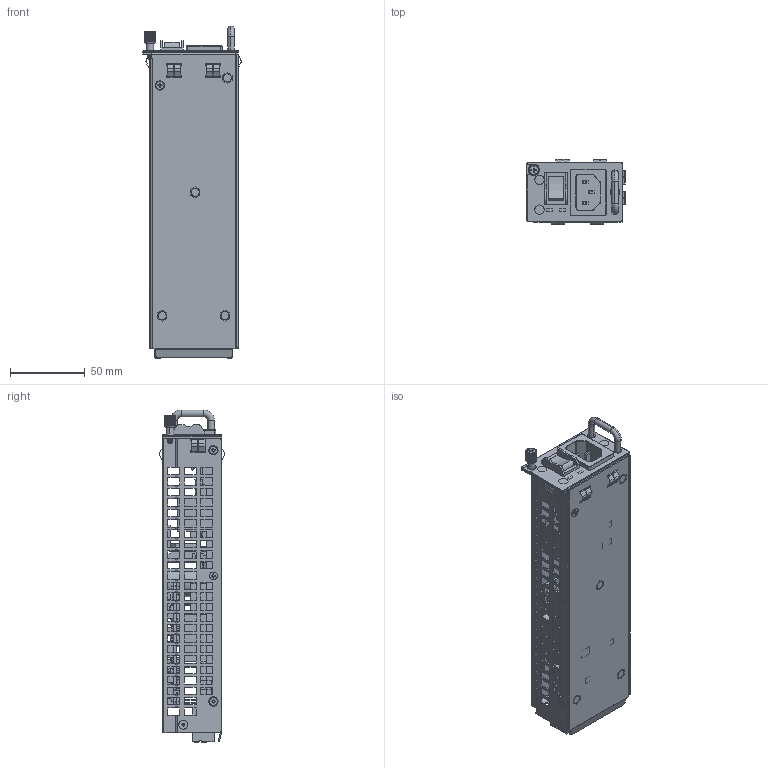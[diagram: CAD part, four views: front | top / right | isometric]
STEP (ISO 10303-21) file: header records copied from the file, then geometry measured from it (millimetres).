
FILE_DESCRIPTION((''),'2;1');
FILE_NAME('POE-U160D12480','2022-08-15T16:11:57',('pd072'),(''),'CREO PARAMETRIC BY PTC INC, 2017260','CREO PARAMETRIC BY PTC INC, 2017260','');
FILE_SCHEMA(('CONFIG_CONTROL_DESIGN','SHAPE_APPEARANCE_LAYERS_GROUPS'));
Products named in the file (1): POE-U160D12480
Bounding box: 65.85 x 43.7 x 222.03 mm (x, y, z)
Surface area: 219713.8 mm2 (no closed solid volume)
Topology: 0 solids, 782 shells, 5436 faces, 17047 edges, 12133 vertices
Faces by surface type: plane 4747, cylinder 618, cone 30, bspline 19, torus 18, sphere 4
Entity records: 204003 total; most frequent: CARTESIAN_POINT 40661, DIRECTION 29673, ORIENTED_EDGE 26863, EDGE_CURVE 17043, VECTOR 14337, LINE 14337, VERTEX_POINT 12133, AXIS2_PLACEMENT_3D 7668
